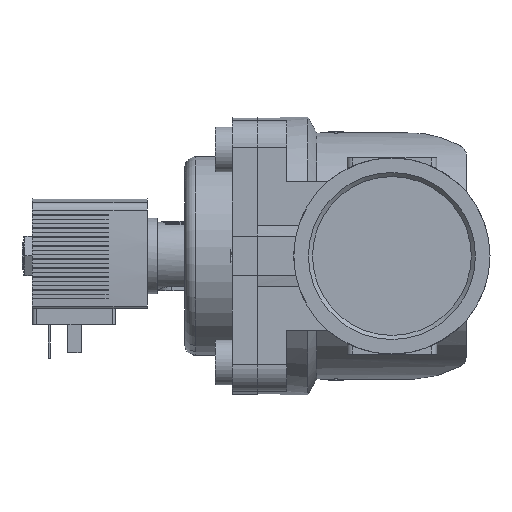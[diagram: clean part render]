
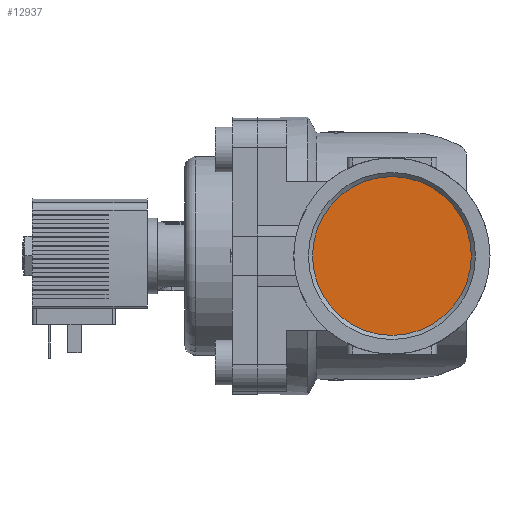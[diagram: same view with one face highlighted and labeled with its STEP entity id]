
A CAD part, left-side view. The second image highlights one B-rep face of the part: STEP entity #12937.
In plain terms, the highlighted planar face has unit normal (-1, 0, 0).
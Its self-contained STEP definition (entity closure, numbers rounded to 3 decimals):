
#3798=ORIENTED_EDGE('',*,*,#6241,.F.);
#6241=EDGE_CURVE('',#7569,#7569,#8318,.T.);
#7569=VERTEX_POINT('',#18595);
#8318=CIRCLE('',#13697,28.328);
#8711=EDGE_LOOP('',(#3798));
#9307=FACE_BOUND('',#8711,.T.);
#9793=PLANE('',#13698);
#12937=ADVANCED_FACE('',(#9307),#9793,.T.);
#13697=AXIS2_PLACEMENT_3D('',#18594,#15391,#15392);
#13698=AXIS2_PLACEMENT_3D('',#18596,#15393,#15394);
#15391=DIRECTION('',(1.,0.,0.));
#15392=DIRECTION('',(0.,1.,0.));
#15393=DIRECTION('',(-1.,0.,0.));
#15394=DIRECTION('',(0.,-1.,0.));
#18594=CARTESIAN_POINT('',(-41.,0.,0.));
#18595=CARTESIAN_POINT('',(-41.,28.328,0.));
#18596=CARTESIAN_POINT('',(-41.,28.328,0.));
